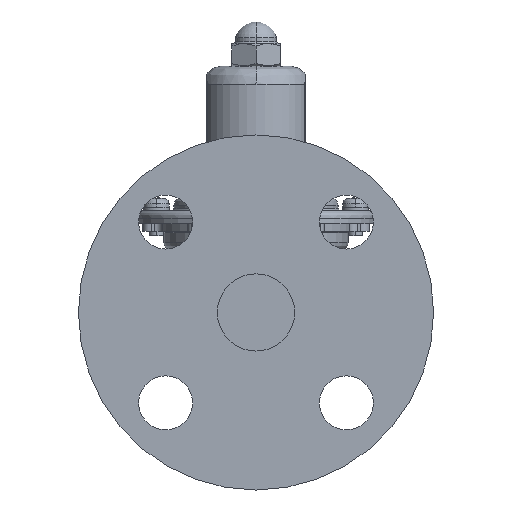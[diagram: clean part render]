
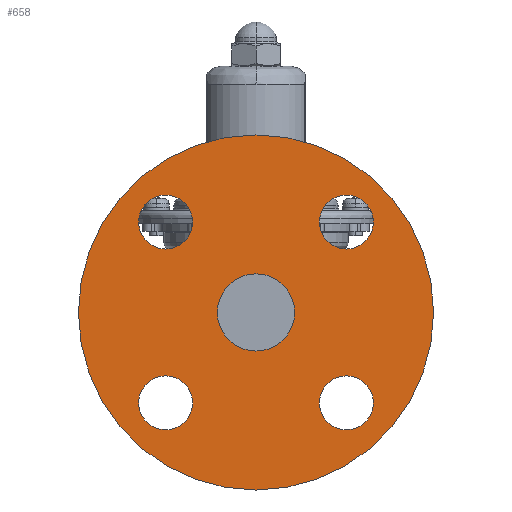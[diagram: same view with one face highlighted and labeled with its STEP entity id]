
A CAD part, left-side view. The second image highlights one B-rep face of the part: STEP entity #658.
In plain terms, the highlighted planar face has unit normal (-1, 0, 0).
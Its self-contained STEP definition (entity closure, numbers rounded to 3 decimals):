
#658=ADVANCED_FACE('',(#3624,#3625,#3626,#3627,#3628,#3629),#3623,.F.);
#3623=PLANE('',#8005);
#3624=FACE_OUTER_BOUND('',#8006,.T.);
#3625=FACE_BOUND('',#8007,.T.);
#3626=FACE_BOUND('',#8008,.T.);
#3627=FACE_BOUND('',#8009,.T.);
#3628=FACE_BOUND('',#8010,.T.);
#3629=FACE_BOUND('',#8011,.T.);
#8002=CARTESIAN_POINT('',(-97.5,-118.253,135.));
#8003=DIRECTION('',(1.,0.,0.));
#8004=DIRECTION('',(0.,0.,-1.));
#8005=AXIS2_PLACEMENT_3D('',#8002,#8003,#8004);
#8006=EDGE_LOOP('',(#10789,#10790));
#8007=EDGE_LOOP('',(#10791,#10792));
#8008=EDGE_LOOP('',(#10793,#10794));
#8009=EDGE_LOOP('',(#10795,#10796));
#8010=EDGE_LOOP('',(#10797,#10798));
#8011=EDGE_LOOP('',(#10799,#10800));
#10789=ORIENTED_EDGE('',*,*,#12605,.F.);
#10790=ORIENTED_EDGE('',*,*,#12606,.F.);
#10791=ORIENTED_EDGE('',*,*,#12607,.T.);
#10792=ORIENTED_EDGE('',*,*,#12608,.T.);
#10793=ORIENTED_EDGE('',*,*,#12609,.T.);
#10794=ORIENTED_EDGE('',*,*,#12610,.T.);
#10795=ORIENTED_EDGE('',*,*,#12611,.T.);
#10796=ORIENTED_EDGE('',*,*,#12612,.T.);
#10797=ORIENTED_EDGE('',*,*,#12613,.T.);
#10798=ORIENTED_EDGE('',*,*,#12614,.T.);
#10799=ORIENTED_EDGE('',*,*,#12615,.T.);
#10800=ORIENTED_EDGE('',*,*,#12616,.T.);
#12605=EDGE_CURVE('',#18325,#18326,#18327,.T.);
#12606=EDGE_CURVE('',#18326,#18325,#18333,.T.);
#12607=EDGE_CURVE('',#18339,#18340,#18341,.T.);
#12608=EDGE_CURVE('',#18340,#18339,#18347,.T.);
#12609=EDGE_CURVE('',#18353,#18354,#18355,.T.);
#12610=EDGE_CURVE('',#18354,#18353,#18361,.T.);
#12611=EDGE_CURVE('',#18367,#18368,#18369,.T.);
#12612=EDGE_CURVE('',#18368,#18367,#18375,.T.);
#12613=EDGE_CURVE('',#18381,#18382,#18383,.T.);
#12614=EDGE_CURVE('',#18382,#18381,#18389,.T.);
#12615=EDGE_CURVE('',#18395,#18396,#18397,.T.);
#12616=EDGE_CURVE('',#18396,#18395,#18403,.T.);
#18325=VERTEX_POINT('',#24907);
#18326=VERTEX_POINT('',#24908);
#18327=CIRCLE('',#24912,62.5);
#18333=CIRCLE('',#24916,62.5);
#18339=VERTEX_POINT('',#24917);
#18340=VERTEX_POINT('',#24918);
#18341=CIRCLE('',#24922,9.5);
#18347=CIRCLE('',#24926,9.5);
#18353=VERTEX_POINT('',#24927);
#18354=VERTEX_POINT('',#24928);
#18355=CIRCLE('',#24932,9.5);
#18361=CIRCLE('',#24936,9.5);
#18367=VERTEX_POINT('',#24937);
#18368=VERTEX_POINT('',#24938);
#18369=CIRCLE('',#24942,9.5);
#18375=CIRCLE('',#24946,9.5);
#18381=VERTEX_POINT('',#24947);
#18382=VERTEX_POINT('',#24948);
#18383=CIRCLE('',#24952,9.5);
#18389=CIRCLE('',#24956,9.5);
#18395=VERTEX_POINT('',#24957);
#18396=VERTEX_POINT('',#24958);
#18397=CIRCLE('',#24962,13.6);
#18403=CIRCLE('',#24966,13.6);
#24907=CARTESIAN_POINT('',(-97.5,0.,62.5));
#24908=CARTESIAN_POINT('',(-97.5,0.,-62.5));
#24909=CARTESIAN_POINT('',(-97.5,0.,0.));
#24910=DIRECTION('',(1.,0.,0.));
#24911=DIRECTION('',(0.,0.,-1.));
#24912=AXIS2_PLACEMENT_3D('',#24909,#24910,#24911);
#24913=CARTESIAN_POINT('',(-97.5,0.,0.));
#24914=DIRECTION('',(1.,0.,0.));
#24915=DIRECTION('',(0.,0.,-1.));
#24916=AXIS2_PLACEMENT_3D('',#24913,#24914,#24915);
#24917=CARTESIAN_POINT('',(-97.5,-31.82,41.32));
#24918=CARTESIAN_POINT('',(-97.5,-31.82,22.32));
#24919=CARTESIAN_POINT('',(-97.5,-31.82,31.82));
#24920=DIRECTION('',(1.,0.,0.));
#24921=DIRECTION('',(0.,0.,1.));
#24922=AXIS2_PLACEMENT_3D('',#24919,#24920,#24921);
#24923=CARTESIAN_POINT('',(-97.5,-31.82,31.82));
#24924=DIRECTION('',(1.,0.,0.));
#24925=DIRECTION('',(0.,0.,1.));
#24926=AXIS2_PLACEMENT_3D('',#24923,#24924,#24925);
#24927=CARTESIAN_POINT('',(-97.5,31.82,41.32));
#24928=CARTESIAN_POINT('',(-97.5,31.82,22.32));
#24929=CARTESIAN_POINT('',(-97.5,31.82,31.82));
#24930=DIRECTION('',(1.,0.,0.));
#24931=DIRECTION('',(0.,0.,1.));
#24932=AXIS2_PLACEMENT_3D('',#24929,#24930,#24931);
#24933=CARTESIAN_POINT('',(-97.5,31.82,31.82));
#24934=DIRECTION('',(1.,0.,0.));
#24935=DIRECTION('',(0.,0.,1.));
#24936=AXIS2_PLACEMENT_3D('',#24933,#24934,#24935);
#24937=CARTESIAN_POINT('',(-97.5,31.82,-22.32));
#24938=CARTESIAN_POINT('',(-97.5,31.82,-41.32));
#24939=CARTESIAN_POINT('',(-97.5,31.82,-31.82));
#24940=DIRECTION('',(1.,0.,0.));
#24941=DIRECTION('',(0.,0.,1.));
#24942=AXIS2_PLACEMENT_3D('',#24939,#24940,#24941);
#24943=CARTESIAN_POINT('',(-97.5,31.82,-31.82));
#24944=DIRECTION('',(1.,0.,0.));
#24945=DIRECTION('',(0.,0.,1.));
#24946=AXIS2_PLACEMENT_3D('',#24943,#24944,#24945);
#24947=CARTESIAN_POINT('',(-97.5,-31.82,-22.32));
#24948=CARTESIAN_POINT('',(-97.5,-31.82,-41.32));
#24949=CARTESIAN_POINT('',(-97.5,-31.82,-31.82));
#24950=DIRECTION('',(1.,0.,0.));
#24951=DIRECTION('',(0.,0.,1.));
#24952=AXIS2_PLACEMENT_3D('',#24949,#24950,#24951);
#24953=CARTESIAN_POINT('',(-97.5,-31.82,-31.82));
#24954=DIRECTION('',(1.,0.,0.));
#24955=DIRECTION('',(0.,0.,1.));
#24956=AXIS2_PLACEMENT_3D('',#24953,#24954,#24955);
#24957=CARTESIAN_POINT('',(-97.5,0.,13.6));
#24958=CARTESIAN_POINT('',(-97.5,0.,-13.6));
#24959=CARTESIAN_POINT('',(-97.5,0.,0.));
#24960=DIRECTION('',(1.,0.,0.));
#24961=DIRECTION('',(0.,0.,1.));
#24962=AXIS2_PLACEMENT_3D('',#24959,#24960,#24961);
#24963=CARTESIAN_POINT('',(-97.5,0.,0.));
#24964=DIRECTION('',(1.,0.,0.));
#24965=DIRECTION('',(0.,0.,1.));
#24966=AXIS2_PLACEMENT_3D('',#24963,#24964,#24965);
